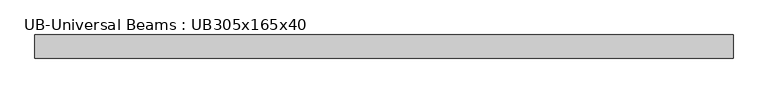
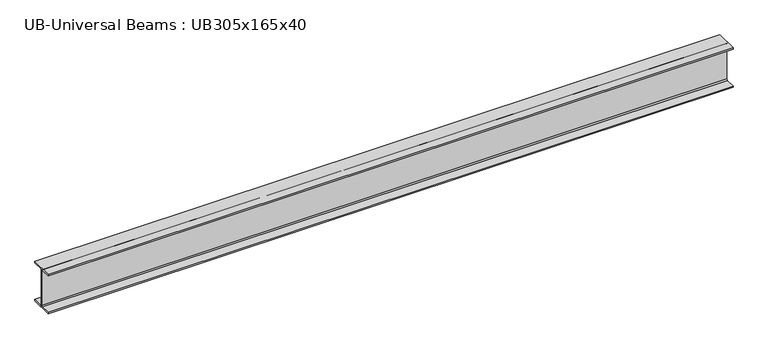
"""IFC4 building model written with IfcOpenShell, lengths in millimetres: beam geometry, UB-Universal Beams : UB305x165x40."""

from ifc_helpers import new_model, si_unit, point, frame, frame_2d, origin, place, context, project, spatial, polyline, circle_curve, trimmed, segment, composite_curve, outline, extrude, source, transform, mapped, element, save


def ub_universal_beams_ub305x165x40_d3abc31d(model_context):
    return source(origin(), model_context, "Body", "SweptSolid", [
        extrude(outline(composite_curve([segment(polyline([(82.5, -141.5), (82.5, -151.7), (-82.5, -151.7), (-82.5, -141.5), (-11.9, -141.5)]), True, "CONTINUOUS"), segment(trimmed(circle_curve(frame_2d((-11.9, -132.6)), 8.9), [point((-11.9, -141.5))], [point((-3.0, -132.6))], True, "CARTESIAN"), True, "CONTINUOUS"), segment(polyline([(-3.0, -132.6), (-3.0, 132.6)]), True, "CONTINUOUS"), segment(trimmed(circle_curve(frame_2d((-11.9, 132.6)), 8.9), [point((-3.0, 132.6))], [point((-11.9, 141.5))], True, "CARTESIAN"), True, "CONTINUOUS"), segment(polyline([(-11.9, 141.5), (-82.5, 141.5), (-82.5, 151.7), (82.5, 151.7), (82.5, 141.5), (11.9, 141.5)]), True, "CONTINUOUS"), segment(trimmed(circle_curve(frame_2d((11.9, 132.6)), 8.9), [point((11.9, 141.5))], [point((3.0, 132.6))], True, "CARTESIAN"), True, "CONTINUOUS"), segment(polyline([(3.0, 132.6), (3.0, -132.6)]), True, "CONTINUOUS"), segment(trimmed(circle_curve(frame_2d((11.9, -132.6)), 8.9), [point((3.0, -132.6))], [point((11.9, -141.5))], True, "CARTESIAN"), True, "CONTINUOUS"), segment(polyline([(11.9, -141.5), (82.5, -141.5)]), True, "CONTINUOUS")], self_intersect=False)), frame((-2487.5, 0.0, 0.0), z_axis=(1.0, 0.0, 0.0), x_axis=(0.0, 1.0, 0.0)), (0.0, 0.0, 1.0), 4975.0),
    ])


if __name__ == "__main__":
    model = new_model("IFC4")
    model_context = context("Model", 3, world=origin())
    ifc_project = project(units=[si_unit("LENGTHUNIT", "METRE", prefix="MILLI")], contexts=[model_context])
    site = spatial("IfcSite", under=ifc_project)
    building = spatial("IfcBuilding", under=site)
    placement = place(None, origin())
    ub_universal_beams_ub305x165x40_shape = ub_universal_beams_ub305x165x40_d3abc31d(model_context)
    element("IfcBeam", 1, ObjectType="UB-Universal Beams : UB305x165x40", at=placement, inside=building, context=model_context, shape_type="MappedRepresentation", body=[
        mapped(ub_universal_beams_ub305x165x40_shape, transform((0.0, 0.0, 0.0), x_axis=(1.0, 0.0, 0.0), y_axis=(0.0, 1.0, 0.0), z_axis=(0.0, 0.0, 1.0))),
    ])
    save(model, "model.ifc")
